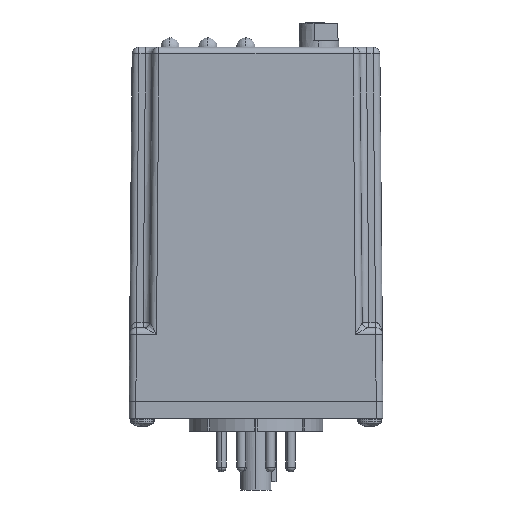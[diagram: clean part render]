
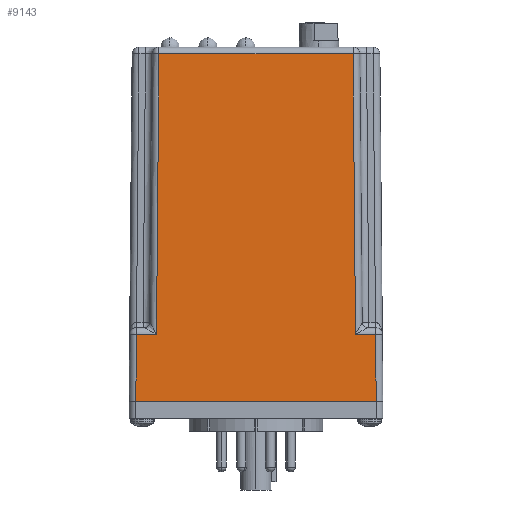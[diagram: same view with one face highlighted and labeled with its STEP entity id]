
A CAD part, left-side view. The second image highlights one B-rep face of the part: STEP entity #9143.
In plain terms, the highlighted planar face has unit normal (-1, 0, 0.009).
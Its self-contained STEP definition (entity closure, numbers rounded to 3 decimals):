
#1001 = DIRECTION ( 'NONE',  ( 0.009, 0., 1. ) ) ;
#3336 = EDGE_CURVE ( 'NONE', #24014, #25199, #27454, .T. ) ;
#3561 = VECTOR ( 'NONE', #28485, 1000. ) ;
#3766 = ORIENTED_EDGE ( 'NONE', *, *, #3336, .T. ) ;
#4222 = DIRECTION ( 'NONE',  ( -1., 0., 0.009 ) ) ;
#4300 = LINE ( 'NONE', #32042, #29760 ) ;
#4936 = LINE ( 'NONE', #28691, #3561 ) ;
#5729 = DIRECTION ( 'NONE',  ( 0., -1., 0. ) ) ;
#6796 = CARTESIAN_POINT ( 'NONE',  ( -22.086, -23.635, 15.889 ) ) ;
#7546 = VECTOR ( 'NONE', #31123, 1000. ) ;
#9143 = ADVANCED_FACE ( 'NONE', ( #31771 ), #37987, .T. ) ;
#9642 = LINE ( 'NONE', #24296, #26133 ) ;
#10196 = CARTESIAN_POINT ( 'NONE',  ( -22.225, -28.562, -0.014 ) ) ;
#11197 = EDGE_CURVE ( 'NONE', #24128, #36867, #28443, .T. ) ;
#12408 = CARTESIAN_POINT ( 'NONE',  ( -22.221, 23.783, 0.471 ) ) ;
#13860 = AXIS2_PLACEMENT_3D ( 'NONE', #22348, #4222, #1001 ) ;
#14169 = CARTESIAN_POINT ( 'NONE',  ( -21.505, -23.067, 82.554 ) ) ;
#14955 = CARTESIAN_POINT ( 'NONE',  ( -22.225, 28.562, 0. ) ) ;
#15007 = LINE ( 'NONE', #20792, #30002 ) ;
#15214 = VERTEX_POINT ( 'NONE', #14169 ) ;
#16135 = EDGE_CURVE ( 'NONE', #25176, #24128, #26840, .T. ) ;
#16448 = VECTOR ( 'NONE', #5729, 1000. ) ;
#17308 = CARTESIAN_POINT ( 'NONE',  ( -22.086, -23.649, 15.889 ) ) ;
#17979 = DIRECTION ( 'NONE',  ( 0.009, 0.009, 1. ) ) ;
#18001 = VERTEX_POINT ( 'NONE', #35668 ) ;
#20594 = CARTESIAN_POINT ( 'NONE',  ( -22.225, -30.163, 0. ) ) ;
#20792 = CARTESIAN_POINT ( 'NONE',  ( -22.225, -23.788, -0.056 ) ) ;
#20988 = ORIENTED_EDGE ( 'NONE', *, *, #28903, .T. ) ;
#21255 = DIRECTION ( 'NONE',  ( 0., 1., 0. ) ) ;
#22348 = CARTESIAN_POINT ( 'NONE',  ( -22.225, -30.163, 0. ) ) ;
#22628 = DIRECTION ( 'NONE',  ( 0.009, 0.009, 1. ) ) ;
#23459 = CARTESIAN_POINT ( 'NONE',  ( -22.086, -28.424, 15.889 ) ) ;
#24014 = VERTEX_POINT ( 'NONE', #37713 ) ;
#24041 = DIRECTION ( 'NONE',  ( -0.009, 0.009, -1. ) ) ;
#24128 = VERTEX_POINT ( 'NONE', #28858 ) ;
#24296 = CARTESIAN_POINT ( 'NONE',  ( -21.505, 23.053, 82.554 ) ) ;
#24898 = ORIENTED_EDGE ( 'NONE', *, *, #39149, .T. ) ;
#25176 = VERTEX_POINT ( 'NONE', #14955 ) ;
#25199 = VERTEX_POINT ( 'NONE', #33403 ) ;
#26133 = VECTOR ( 'NONE', #21255, 1000. ) ;
#26840 = LINE ( 'NONE', #20594, #16448 ) ;
#27454 = LINE ( 'NONE', #12408, #33093 ) ;
#27658 = ORIENTED_EDGE ( 'NONE', *, *, #16135, .T. ) ;
#28004 = ORIENTED_EDGE ( 'NONE', *, *, #36755, .T. ) ;
#28443 = LINE ( 'NONE', #10196, #31234 ) ;
#28485 = DIRECTION ( 'NONE',  ( -0.009, 0.009, -1. ) ) ;
#28691 = CARTESIAN_POINT ( 'NONE',  ( -22.221, 28.558, 0.512 ) ) ;
#28858 = CARTESIAN_POINT ( 'NONE',  ( -22.225, -28.562, 0. ) ) ;
#28903 = EDGE_CURVE ( 'NONE', #25199, #18001, #4300, .T. ) ;
#29233 = VERTEX_POINT ( 'NONE', #17308 ) ;
#29760 = VECTOR ( 'NONE', #35456, 1000. ) ;
#30002 = VECTOR ( 'NONE', #17979, 1000. ) ;
#31123 = DIRECTION ( 'NONE',  ( 0., 1., 0. ) ) ;
#31234 = VECTOR ( 'NONE', #22628, 1000. ) ;
#31771 = FACE_OUTER_BOUND ( 'NONE', #33222, .T. ) ;
#32042 = CARTESIAN_POINT ( 'NONE',  ( -22.086, 28.41, 15.889 ) ) ;
#32729 = ORIENTED_EDGE ( 'NONE', *, *, #38065, .T. ) ;
#33093 = VECTOR ( 'NONE', #24041, 1000. ) ;
#33222 = EDGE_LOOP ( 'NONE', ( #3766, #20988, #28004, #27658, #37156, #32729, #24898, #36044 ) ) ;
#33403 = CARTESIAN_POINT ( 'NONE',  ( -22.086, 23.649, 15.889 ) ) ;
#34330 = LINE ( 'NONE', #6796, #7546 ) ;
#35456 = DIRECTION ( 'NONE',  ( 0., 1., 0. ) ) ;
#35668 = CARTESIAN_POINT ( 'NONE',  ( -22.086, 28.424, 15.889 ) ) ;
#36044 = ORIENTED_EDGE ( 'NONE', *, *, #37967, .T. ) ;
#36755 = EDGE_CURVE ( 'NONE', #18001, #25176, #4936, .T. ) ;
#36867 = VERTEX_POINT ( 'NONE', #23459 ) ;
#37156 = ORIENTED_EDGE ( 'NONE', *, *, #11197, .T. ) ;
#37713 = CARTESIAN_POINT ( 'NONE',  ( -21.505, 23.067, 82.554 ) ) ;
#37967 = EDGE_CURVE ( 'NONE', #15214, #24014, #9642, .T. ) ;
#37987 = PLANE ( 'NONE',  #13860 ) ;
#38065 = EDGE_CURVE ( 'NONE', #36867, #29233, #34330, .T. ) ;
#39149 = EDGE_CURVE ( 'NONE', #29233, #15214, #15007, .T. ) ;
